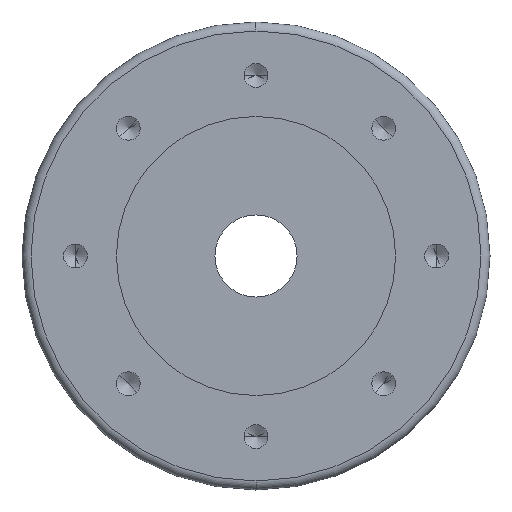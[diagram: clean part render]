
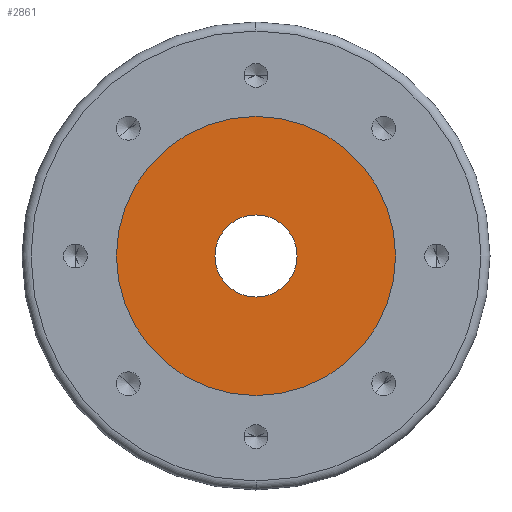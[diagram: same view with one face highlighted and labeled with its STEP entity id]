
A CAD part, left-side view. The second image highlights one B-rep face of the part: STEP entity #2861.
In plain terms, the highlighted planar face has unit normal (-1, 0, 0).
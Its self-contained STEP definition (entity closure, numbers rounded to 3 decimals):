
#193 = VERTEX_POINT ( 'NONE', #2509 ) ;
#197 = EDGE_CURVE ( 'NONE', #193, #2056, #2503, .T. ) ;
#342 = EDGE_CURVE ( 'NONE', #2014, #2016, #460, .T. ) ;
#456 = DIRECTION ( 'NONE',  ( 0., 0., 1. ) ) ;
#457 = DIRECTION ( 'NONE',  ( -1., 0., 0. ) ) ;
#458 = CARTESIAN_POINT ( 'NONE',  ( 22., 0., 0. ) ) ;
#459 = AXIS2_PLACEMENT_3D ( 'NONE', #458, #457, #456 ) ;
#460 = CIRCLE ( 'NONE', #459, 85. ) ;
#790 = CARTESIAN_POINT ( 'NONE',  ( 22., 0., -85. ) ) ;
#791 = DIRECTION ( 'NONE',  ( 0., 0., 1. ) ) ;
#792 = DIRECTION ( 'NONE',  ( -1., 0., 0. ) ) ;
#793 = CARTESIAN_POINT ( 'NONE',  ( 22., 0., 0. ) ) ;
#794 = AXIS2_PLACEMENT_3D ( 'NONE', #793, #792, #791 ) ;
#795 = CIRCLE ( 'NONE', #794, 85. ) ;
#796 = CARTESIAN_POINT ( 'NONE',  ( 22., 0., 85. ) ) ;
#837 = CARTESIAN_POINT ( 'NONE',  ( 22., 0., 25. ) ) ;
#1454 = DIRECTION ( 'NONE',  ( 0., 0., 1. ) ) ;
#1455 = DIRECTION ( 'NONE',  ( -1., 0., 0. ) ) ;
#1456 = AXIS2_PLACEMENT_3D ( 'NONE', #1461, #1455, #1454 ) ;
#1457 = CIRCLE ( 'NONE', #1456, 25. ) ;
#1461 = CARTESIAN_POINT ( 'NONE',  ( 22., 0., 0. ) ) ;
#1462 = DIRECTION ( 'NONE',  ( 0., 0., -1. ) ) ;
#1463 = DIRECTION ( 'NONE',  ( 1., 0., 0. ) ) ;
#1464 = CARTESIAN_POINT ( 'NONE',  ( 22., 85., 0. ) ) ;
#1465 = AXIS2_PLACEMENT_3D ( 'NONE', #1464, #1463, #1462 ) ;
#1466 = PLANE ( 'NONE',  #1465 ) ;
#1467 = FACE_OUTER_BOUND ( 'NONE', #2866, .T. ) ;
#1468 = FACE_BOUND ( 'NONE', #2818, .T. ) ;
#2014 = VERTEX_POINT ( 'NONE', #796 ) ;
#2015 = EDGE_CURVE ( 'NONE', #2016, #2014, #795, .T. ) ;
#2016 = VERTEX_POINT ( 'NONE', #790 ) ;
#2056 = VERTEX_POINT ( 'NONE', #837 ) ;
#2499 = DIRECTION ( 'NONE',  ( 0., 0., 1. ) ) ;
#2500 = DIRECTION ( 'NONE',  ( -1., 0., 0. ) ) ;
#2501 = CARTESIAN_POINT ( 'NONE',  ( 22., 0., 0. ) ) ;
#2502 = AXIS2_PLACEMENT_3D ( 'NONE', #2501, #2500, #2499 ) ;
#2503 = CIRCLE ( 'NONE', #2502, 25. ) ;
#2509 = CARTESIAN_POINT ( 'NONE',  ( 22., 0., -25. ) ) ;
#2813 = ORIENTED_EDGE ( 'NONE', *, *, #197, .F. ) ;
#2817 = EDGE_CURVE ( 'NONE', #2056, #193, #1457, .T. ) ;
#2818 = EDGE_LOOP ( 'NONE', ( #2865, #2813 ) ) ;
#2822 = ORIENTED_EDGE ( 'NONE', *, *, #342, .T. ) ;
#2861 = ADVANCED_FACE ( 'NONE', ( #1468, #1467 ), #1466, .F. ) ;
#2865 = ORIENTED_EDGE ( 'NONE', *, *, #2817, .F. ) ;
#2866 = EDGE_LOOP ( 'NONE', ( #2822, #2991 ) ) ;
#2991 = ORIENTED_EDGE ( 'NONE', *, *, #2015, .T. ) ;
